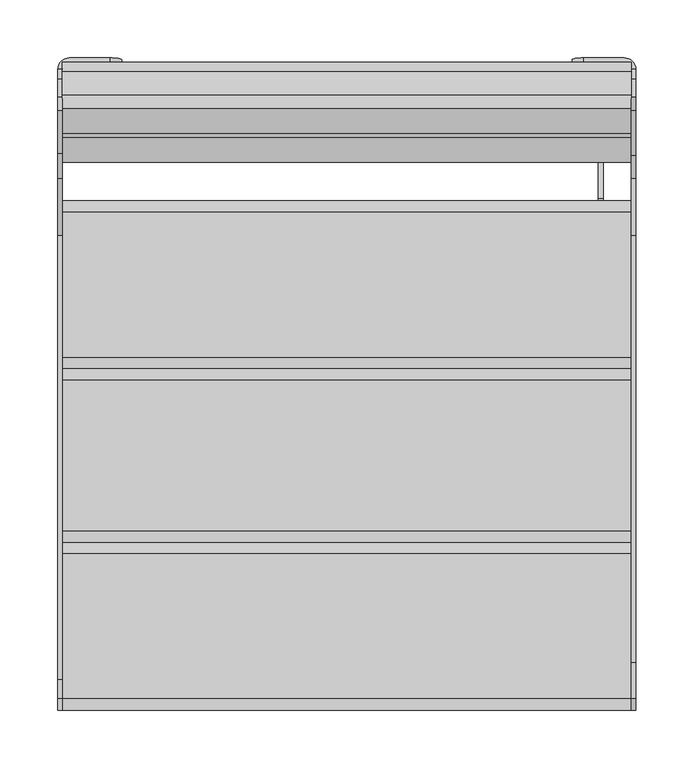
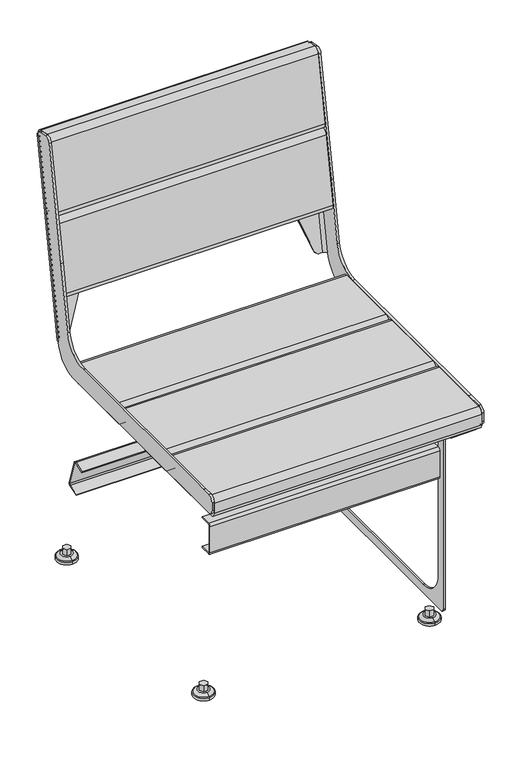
"""IFC4 building model written with IfcOpenShell, lengths in millimetres: furniture geometry, Roros Produkter - Trend - Chair - 32975 : Roros Produkter - Trend - Chair - 32975."""

from ifc_helpers import new_model, si_unit, point, frame, frame_2d, origin, place, context, project, spatial, polyline, circle_curve, ellipse_curve, trimmed, segment, composite_curve, outline, extrude, source, transform, mapped, element, save
from ifc_brep_helpers import plane_surface, cylinder_surface, revolved_surface, advanced_brep


def furniture_13b11725(model_context):
    return source(origin(), model_context, "Body", "SolidModel", [
        extrude(outline(polyline([(210.9527767, -224.3308404), (203.4472233, -224.3308404), (199.6944465, -217.8308404), (203.4472233, -211.3308404), (210.9527767, -211.3308404), (214.7055535, -217.8308404), (210.9527767, -224.3308404)])), frame((0.0, 0.0, 10.0), z_axis=(0.0, 0.0, 1.0), x_axis=(1.0, 0.0, 0.0)), (0.0, 0.0, 1.0), 11.7),
        advanced_brep(
        [(207.18125, -199.3308404, 4.3376919), (207.18125, -236.3308404, 4.3376919), (207.18125, -236.3308404, 0.0), (207.18125, -199.3308404, 0.0), (207.18125, -200.3216002, 6.0888539), (207.18125, -235.3400807, 6.0888539), (207.18125, -206.8308404, 10.0), (207.18125, -228.8308404, 10.0), (207.18125, -217.8308404, 10.0), (207.18125, -217.8308404, 0.0)],
        [
            (0, 1, circle_curve(frame((207.18125, -217.8308404, 4.3376919), z_axis=(0.0, 0.0, -1.0), x_axis=(0.0, -1.0, 0.0)), 18.5)),
            (1, 2),
            (2, 3, circle_curve(frame((207.18125, -217.8308404, 0.0), z_axis=(0.0, 0.0, 1.0), x_axis=(0.0, -1.0, 0.0)), 18.5)),
            (3, 0),
            (1, 0, circle_curve(frame((207.18125, -217.8308404, 4.3376919), z_axis=(0.0, 0.0, -1.0), x_axis=(0.0, -1.0, 0.0)), 18.5)),
            (3, 2, circle_curve(frame((207.18125, -217.8308404, 0.0), z_axis=(0.0, 0.0, 1.0), x_axis=(0.0, -1.0, 0.0)), 18.5)),
            (4, 5, circle_curve(frame((207.18125, -217.8308404, 6.0888539), z_axis=(0.0, 0.0, -1.0), x_axis=(0.0, -1.0, 0.0)), 17.5092402)),
            (5, 1, circle_curve(frame((207.18125, -234.2878764, 4.3376919), z_axis=(1.0, 0.0, 0.0), x_axis=(0.0, 1.0, 0.0)), 2.042964)),
            (0, 4, circle_curve(frame((207.18125, -201.3738045, 4.3376919), z_axis=(1.0, 0.0, 0.0), x_axis=(0.0, -1.0, 0.0)), 2.042964)),
            (5, 4, circle_curve(frame((207.18125, -217.8308404, 6.0888539), z_axis=(0.0, 0.0, -1.0), x_axis=(0.0, -1.0, 0.0)), 17.5092402)),
            (6, 7, circle_curve(frame((207.18125, -217.8308404, 10.0), z_axis=(0.0, 0.0, -1.0), x_axis=(0.0, -1.0, 0.0)), 11.0)),
            (7, 5),
            (4, 6),
            (7, 6, circle_curve(frame((207.18125, -217.8308404, 10.0), z_axis=(0.0, 0.0, -1.0), x_axis=(0.0, -1.0, 0.0)), 11.0)),
            (8, 7),
            (6, 8),
            (2, 9),
            (9, 3),
        ],
        [
            cylinder_surface(frame((207.18125, -217.8308404, 10.0), z_axis=(0.0, 0.0, 1.0), x_axis=(0.0, -1.0, 0.0)), 18.5),
            revolved_surface(trimmed(ellipse_curve(frame((207.18125, -234.2878764, 4.3376919), z_axis=(-1.0, 0.0, 0.0), x_axis=(0.0, 1.0, 0.0)), 2.042964, 2.042964), [point((207.18125, -236.3308404, 4.3376919))], [point((207.18125, -235.3400807, 6.0888539))], True, "CARTESIAN"), (207.18125, -217.8308404, 10.0), (0.0, 0.0, 1.0)),
            revolved_surface(polyline([(207.18125, -235.3400807, 6.0888539), (207.18125, -228.8308404, 10.0)]), (207.18125, -217.8308404, 10.0), (0.0, 0.0, 1.0)),
            plane_surface(frame((207.18125, -217.8308404, 10.0), z_axis=(0.0, 0.0, 1.0), x_axis=(0.0, -1.0, 0.0))),
            plane_surface(frame((207.18125, -217.8308404, 0.0), z_axis=(0.0, 0.0, -1.0), x_axis=(0.0, -1.0, 0.0))),
        ],
        [
            (0, [[1, 2, 3, 4]]),
            (0, [[5, -4, 6, -2]]),
            (1, [[7, 8, -1, 9]]),
            (1, [[10, -9, -5, -8]]),
            (2, [[11, 12, -7, 13]]),
            (2, [[14, -13, -10, -12]]),
            (3, [[15, -11, 16]]),
            (3, [[-16, -14, -15]]),
            (4, [[-3, 17, 18]]),
            (4, [[-6, -18, -17]]),
        ],
    ),
        extrude(outline(polyline([(210.9527767, 224.3308404), (214.7055535, 217.8308404), (210.9527767, 211.3308404), (203.4472233, 211.3308404), (199.6944465, 217.8308404), (203.4472233, 224.3308404), (210.9527767, 224.3308404)])), frame((0.0, 0.0, 10.0), z_axis=(0.0, 0.0, 1.0), x_axis=(1.0, 0.0, 0.0)), (0.0, 0.0, 1.0), 11.7),
        advanced_brep(
        [(207.18125, 199.3308404, 0.0), (207.18125, 236.3308404, 0.0), (207.18125, 236.3308404, 4.3376919), (207.18125, 199.3308404, 4.3376919), (207.18125, 235.3400807, 6.0888539), (207.18125, 200.3216002, 6.0888539), (207.18125, 228.8308404, 10.0), (207.18125, 206.8308404, 10.0), (207.18125, 217.8308404, 10.0), (207.18125, 217.8308404, 0.0)],
        [
            (0, 1, circle_curve(frame((207.18125, 217.8308404, 0.0), z_axis=(0.0, 0.0, 1.0), x_axis=(0.0, 1.0, 0.0)), 18.5)),
            (1, 2),
            (2, 3, circle_curve(frame((207.18125, 217.8308404, 4.3376919), z_axis=(0.0, 0.0, -1.0), x_axis=(0.0, 1.0, 0.0)), 18.5)),
            (3, 0),
            (1, 0, circle_curve(frame((207.18125, 217.8308404, 0.0), z_axis=(0.0, 0.0, 1.0), x_axis=(0.0, 1.0, 0.0)), 18.5)),
            (3, 2, circle_curve(frame((207.18125, 217.8308404, 4.3376919), z_axis=(0.0, 0.0, -1.0), x_axis=(0.0, 1.0, 0.0)), 18.5)),
            (2, 4, circle_curve(frame((207.18125, 234.2878764, 4.3376919), z_axis=(1.0, 0.0, 0.0), x_axis=(0.0, -1.0, 0.0)), 2.042964)),
            (4, 5, circle_curve(frame((207.18125, 217.8308404, 6.0888539), z_axis=(0.0, 0.0, -1.0), x_axis=(0.0, 1.0, 0.0)), 17.5092402)),
            (5, 3, circle_curve(frame((207.18125, 201.3738045, 4.3376919), z_axis=(1.0, 0.0, 0.0), x_axis=(0.0, 1.0, 0.0)), 2.042964)),
            (5, 4, circle_curve(frame((207.18125, 217.8308404, 6.0888539), z_axis=(0.0, 0.0, -1.0), x_axis=(0.0, 1.0, 0.0)), 17.5092402)),
            (4, 6),
            (6, 7, circle_curve(frame((207.18125, 217.8308404, 10.0), z_axis=(0.0, 0.0, -1.0), x_axis=(0.0, 1.0, 0.0)), 11.0)),
            (7, 5),
            (7, 6, circle_curve(frame((207.18125, 217.8308404, 10.0), z_axis=(0.0, 0.0, -1.0), x_axis=(0.0, 1.0, 0.0)), 11.0)),
            (6, 8),
            (8, 7),
            (9, 1),
            (0, 9),
        ],
        [
            cylinder_surface(frame((207.18125, 217.8308404, 10.0), z_axis=(0.0, 0.0, -1.0), x_axis=(0.0, 1.0, 0.0)), 18.5),
            revolved_surface(trimmed(ellipse_curve(frame((207.18125, 234.2878764, 4.3376919), z_axis=(-1.0, 0.0, 0.0), x_axis=(0.0, -1.0, 0.0)), 2.042964, 2.042964), [point((207.18125, 235.3400807, 6.0888539))], [point((207.18125, 236.3308404, 4.3376919))], True, "CARTESIAN"), (207.18125, 217.8308404, 10.0), (0.0, 0.0, -1.0)),
            revolved_surface(polyline([(207.18125, 228.8308404, 10.0), (207.18125, 235.3400807, 6.0888539)]), (207.18125, 217.8308404, 10.0), (0.0, 0.0, -1.0)),
            plane_surface(frame((207.18125, 217.8308404, 10.0), z_axis=(0.0, 0.0, 1.0), x_axis=(0.0, 1.0, 0.0))),
            plane_surface(frame((207.18125, 217.8308404, 0.0), z_axis=(0.0, 0.0, -1.0), x_axis=(0.0, 1.0, 0.0))),
        ],
        [
            (0, [[1, 2, 3, 4]]),
            (0, [[5, -4, 6, -2]]),
            (1, [[-3, 7, 8, 9]]),
            (1, [[-6, -9, 10, -7]]),
            (2, [[-8, 11, 12, 13]]),
            (2, [[-10, -13, 14, -11]]),
            (3, [[-12, 15, 16]]),
            (3, [[-14, -16, -15]]),
            (4, [[17, -1, 18]]),
            (4, [[-18, -5, -17]]),
        ],
    ),
        extrude(outline(polyline([(-211.5527767, -224.3308404), (-215.3055535, -217.8308404), (-211.5527767, -211.3308404), (-204.0472233, -211.3308404), (-200.2944465, -217.8308404), (-204.0472233, -224.3308404), (-211.5527767, -224.3308404)])), frame((0.0, 0.0, 10.0), z_axis=(0.0, 0.0, 1.0), x_axis=(1.0, 0.0, 0.0)), (0.0, 0.0, 1.0), 11.7),
        advanced_brep(
        [(-207.78125, -199.3308404, 0.0), (-207.78125, -236.3308404, 0.0), (-207.78125, -236.3308404, 4.3376919), (-207.78125, -199.3308404, 4.3376919), (-207.78125, -235.3400807, 6.0888539), (-207.78125, -200.3216002, 6.0888539), (-207.78125, -228.8308404, 10.0), (-207.78125, -206.8308404, 10.0), (-207.78125, -217.8308404, 10.0), (-207.78125, -217.8308404, 0.0)],
        [
            (0, 1, circle_curve(frame((-207.78125, -217.8308404, 0.0), z_axis=(0.0, 0.0, 1.0), x_axis=(0.0, -1.0, 0.0)), 18.5)),
            (1, 2),
            (2, 3, circle_curve(frame((-207.78125, -217.8308404, 4.3376919), z_axis=(0.0, 0.0, -1.0), x_axis=(0.0, -1.0, 0.0)), 18.5)),
            (3, 0),
            (1, 0, circle_curve(frame((-207.78125, -217.8308404, 0.0), z_axis=(0.0, 0.0, 1.0), x_axis=(0.0, -1.0, 0.0)), 18.5)),
            (3, 2, circle_curve(frame((-207.78125, -217.8308404, 4.3376919), z_axis=(0.0, 0.0, -1.0), x_axis=(0.0, -1.0, 0.0)), 18.5)),
            (2, 4, circle_curve(frame((-207.78125, -234.2878764, 4.3376919), z_axis=(-1.0, 0.0, 0.0), x_axis=(0.0, 1.0, 0.0)), 2.042964)),
            (4, 5, circle_curve(frame((-207.78125, -217.8308404, 6.0888539), z_axis=(0.0, 0.0, -1.0), x_axis=(0.0, -1.0, 0.0)), 17.5092402)),
            (5, 3, circle_curve(frame((-207.78125, -201.3738045, 4.3376919), z_axis=(-1.0, 0.0, 0.0), x_axis=(0.0, -1.0, 0.0)), 2.042964)),
            (5, 4, circle_curve(frame((-207.78125, -217.8308404, 6.0888539), z_axis=(0.0, 0.0, -1.0), x_axis=(0.0, -1.0, 0.0)), 17.5092402)),
            (4, 6),
            (6, 7, circle_curve(frame((-207.78125, -217.8308404, 10.0), z_axis=(0.0, 0.0, -1.0), x_axis=(0.0, -1.0, 0.0)), 11.0)),
            (7, 5),
            (7, 6, circle_curve(frame((-207.78125, -217.8308404, 10.0), z_axis=(0.0, 0.0, -1.0), x_axis=(0.0, -1.0, 0.0)), 11.0)),
            (6, 8),
            (8, 7),
            (9, 1),
            (0, 9),
        ],
        [
            cylinder_surface(frame((-207.78125, -217.8308404, 10.0), z_axis=(0.0, 0.0, -1.0), x_axis=(0.0, -1.0, 0.0)), 18.5),
            revolved_surface(trimmed(ellipse_curve(frame((-207.78125, -234.2878764, 4.3376919), z_axis=(1.0, 0.0, 0.0), x_axis=(0.0, 1.0, 0.0)), 2.042964, 2.042964), [point((-207.78125, -235.3400807, 6.0888539))], [point((-207.78125, -236.3308404, 4.3376919))], True, "CARTESIAN"), (-207.78125, -217.8308404, 10.0), (0.0, 0.0, -1.0)),
            revolved_surface(polyline([(-207.78125, -228.8308404, 10.0), (-207.78125, -235.3400807, 6.0888539)]), (-207.78125, -217.8308404, 10.0), (0.0, 0.0, -1.0)),
            plane_surface(frame((-207.78125, -217.8308404, 10.0), z_axis=(0.0, 0.0, 1.0), x_axis=(0.0, -1.0, 0.0))),
            plane_surface(frame((-207.78125, -217.8308404, 0.0), z_axis=(0.0, 0.0, -1.0), x_axis=(0.0, -1.0, 0.0))),
        ],
        [
            (0, [[1, 2, 3, 4]]),
            (0, [[5, -4, 6, -2]]),
            (1, [[-3, 7, 8, 9]]),
            (1, [[-6, -9, 10, -7]]),
            (2, [[-8, 11, 12, 13]]),
            (2, [[-10, -13, 14, -11]]),
            (3, [[-12, 15, 16]]),
            (3, [[-14, -16, -15]]),
            (4, [[17, -1, 18]]),
            (4, [[-18, -5, -17]]),
        ],
    ),
        extrude(outline(polyline([(-211.5527767, 224.3308404), (-204.0472233, 224.3308404), (-200.2944465, 217.8308404), (-204.0472233, 211.3308404), (-211.5527767, 211.3308404), (-215.3055535, 217.8308404), (-211.5527767, 224.3308404)])), frame((0.0, 0.0, 10.0), z_axis=(0.0, 0.0, 1.0), x_axis=(1.0, 0.0, 0.0)), (0.0, 0.0, 1.0), 11.7),
        advanced_brep(
        [(-207.78125, 199.3308404, 4.3376919), (-207.78125, 236.3308404, 4.3376919), (-207.78125, 236.3308404, 0.0), (-207.78125, 199.3308404, 0.0), (-207.78125, 200.3216002, 6.0888539), (-207.78125, 235.3400807, 6.0888539), (-207.78125, 206.8308404, 10.0), (-207.78125, 228.8308404, 10.0), (-207.78125, 217.8308404, 10.0), (-207.78125, 217.8308404, 0.0)],
        [
            (0, 1, circle_curve(frame((-207.78125, 217.8308404, 4.3376919), z_axis=(0.0, 0.0, -1.0), x_axis=(0.0, 1.0, 0.0)), 18.5)),
            (1, 2),
            (2, 3, circle_curve(frame((-207.78125, 217.8308404, 0.0), z_axis=(0.0, 0.0, 1.0), x_axis=(0.0, 1.0, 0.0)), 18.5)),
            (3, 0),
            (1, 0, circle_curve(frame((-207.78125, 217.8308404, 4.3376919), z_axis=(0.0, 0.0, -1.0), x_axis=(0.0, 1.0, 0.0)), 18.5)),
            (3, 2, circle_curve(frame((-207.78125, 217.8308404, 0.0), z_axis=(0.0, 0.0, 1.0), x_axis=(0.0, 1.0, 0.0)), 18.5)),
            (4, 5, circle_curve(frame((-207.78125, 217.8308404, 6.0888539), z_axis=(0.0, 0.0, -1.0), x_axis=(0.0, 1.0, 0.0)), 17.5092402)),
            (5, 1, circle_curve(frame((-207.78125, 234.2878764, 4.3376919), z_axis=(-1.0, 0.0, 0.0), x_axis=(0.0, -1.0, 0.0)), 2.042964)),
            (0, 4, circle_curve(frame((-207.78125, 201.3738045, 4.3376919), z_axis=(-1.0, 0.0, 0.0), x_axis=(0.0, 1.0, 0.0)), 2.042964)),
            (5, 4, circle_curve(frame((-207.78125, 217.8308404, 6.0888539), z_axis=(0.0, 0.0, -1.0), x_axis=(0.0, 1.0, 0.0)), 17.5092402)),
            (6, 7, circle_curve(frame((-207.78125, 217.8308404, 10.0), z_axis=(0.0, 0.0, -1.0), x_axis=(0.0, 1.0, 0.0)), 11.0)),
            (7, 5),
            (4, 6),
            (7, 6, circle_curve(frame((-207.78125, 217.8308404, 10.0), z_axis=(0.0, 0.0, -1.0), x_axis=(0.0, 1.0, 0.0)), 11.0)),
            (8, 7),
            (6, 8),
            (2, 9),
            (9, 3),
        ],
        [
            cylinder_surface(frame((-207.78125, 217.8308404, 10.0), z_axis=(0.0, 0.0, 1.0), x_axis=(0.0, 1.0, 0.0)), 18.5),
            revolved_surface(trimmed(ellipse_curve(frame((-207.78125, 234.2878764, 4.3376919), z_axis=(1.0, 0.0, 0.0), x_axis=(0.0, -1.0, 0.0)), 2.042964, 2.042964), [point((-207.78125, 236.3308404, 4.3376919))], [point((-207.78125, 235.3400807, 6.0888539))], True, "CARTESIAN"), (-207.78125, 217.8308404, 10.0), (0.0, 0.0, 1.0)),
            revolved_surface(polyline([(-207.78125, 235.3400807, 6.0888539), (-207.78125, 228.8308404, 10.0)]), (-207.78125, 217.8308404, 10.0), (0.0, 0.0, 1.0)),
            plane_surface(frame((-207.78125, 217.8308404, 10.0), z_axis=(0.0, 0.0, 1.0), x_axis=(0.0, 1.0, 0.0))),
            plane_surface(frame((-207.78125, 217.8308404, 0.0), z_axis=(0.0, 0.0, -1.0), x_axis=(0.0, 1.0, 0.0))),
        ],
        [
            (0, [[1, 2, 3, 4]]),
            (0, [[5, -4, 6, -2]]),
            (1, [[7, 8, -1, 9]]),
            (1, [[10, -9, -5, -8]]),
            (2, [[11, 12, -7, 13]]),
            (2, [[14, -13, -10, -12]]),
            (3, [[15, -11, 16]]),
            (3, [[-16, -14, -15]]),
            (4, [[-3, 17, 18]]),
            (4, [[-6, -18, -17]]),
        ],
    ),
        extrude(outline(composite_curve([segment(trimmed(circle_curve(frame_2d((-32.8308404, 445.464)), 10.0), [point((-32.8308404, 455.464))], [point((-22.8308404, 445.464))], False, "CARTESIAN"), True, "CONTINUOUS"), segment(polyline([(-22.8308404, 445.464), (-22.8308404, 425.464)]), True, "CONTINUOUS"), segment(trimmed(circle_curve(frame_2d((-32.8308404, 425.464)), 10.0), [point((-22.8308404, 425.464))], [point((-32.8308404, 415.464))], False, "CARTESIAN"), True, "CONTINUOUS"), segment(polyline([(-32.8308404, 415.464), (-162.8308404, 415.464)]), True, "CONTINUOUS"), segment(trimmed(circle_curve(frame_2d((-162.8308404, 425.464)), 10.0), [point((-162.8308404, 415.464))], [point((-172.8308404, 425.464))], False, "CARTESIAN"), True, "CONTINUOUS"), segment(polyline([(-172.8308404, 425.464), (-172.8308404, 445.464)]), True, "CONTINUOUS"), segment(trimmed(circle_curve(frame_2d((-162.8308404, 445.464)), 10.0), [point((-172.8308404, 445.464))], [point((-162.8308404, 455.464))], False, "CARTESIAN"), True, "CONTINUOUS"), segment(polyline([(-162.8308404, 455.464), (-32.8308404, 455.464)]), True, "CONTINUOUS")], self_intersect=False)), frame((-246.0, 0.0, 0.0), z_axis=(1.0, 0.0, 0.0), x_axis=(0.0, 1.0, 0.0)), (0.0, 0.0, 1.0), 491.4),
        extrude(outline(composite_curve([segment(trimmed(circle_curve(frame_2d((231.9175378, 825.7240761)), 10.0), [point((233.6540196, 835.5721536))], [point((241.7656153, 823.9875943))], False, "CARTESIAN"), True, "CONTINUOUS"), segment(polyline([(241.7656153, 823.9875943), (220.0595931, 700.8866252)]), True, "CONTINUOUS"), segment(trimmed(circle_curve(frame_2d((210.2115156, 702.623107)), 10.0), [point((220.0595931, 700.8866252))], [point((208.4750338, 692.7750295))], False, "CARTESIAN"), True, "CONTINUOUS"), segment(polyline([(208.4750338, 692.7750295), (188.7788787, 696.247993)]), True, "CONTINUOUS"), segment(trimmed(circle_curve(frame_2d((190.5153605, 706.0960705)), 10.0), [point((188.7788787, 696.247993))], [point((180.667283, 707.8325523))], False, "CARTESIAN"), True, "CONTINUOUS"), segment(polyline([(180.667283, 707.8325523), (202.3733052, 830.9335214)]), True, "CONTINUOUS"), segment(trimmed(circle_curve(frame_2d((212.2213827, 829.1970397)), 10.0), [point((202.3733052, 830.9335214))], [point((213.9578645, 839.0451172))], False, "CARTESIAN"), True, "CONTINUOUS"), segment(polyline([(213.9578645, 839.0451172), (233.6540196, 835.5721536)]), True, "CONTINUOUS")], self_intersect=False)), frame((-246.0, 0.0, 0.0), z_axis=(1.0, 0.0, 0.0), x_axis=(0.0, 1.0, 0.0)), (0.0, 0.0, 1.0), 491.4),
        extrude(outline(composite_curve([segment(trimmed(circle_curve(frame_2d((112.1691596, 445.464)), 10.0), [point((112.1691596, 455.464))], [point((122.1691596, 445.464))], False, "CARTESIAN"), True, "CONTINUOUS"), segment(polyline([(122.1691596, 445.464), (122.1691596, 425.464)]), True, "CONTINUOUS"), segment(trimmed(circle_curve(frame_2d((112.1691596, 425.464)), 10.0), [point((122.1691596, 425.464))], [point((112.1691596, 415.464))], False, "CARTESIAN"), True, "CONTINUOUS"), segment(polyline([(112.1691596, 415.464), (-12.8308404, 415.464)]), True, "CONTINUOUS"), segment(trimmed(circle_curve(frame_2d((-12.8308404, 425.464)), 10.0), [point((-12.8308404, 415.464))], [point((-22.8308404, 425.464))], False, "CARTESIAN"), True, "CONTINUOUS"), segment(polyline([(-22.8308404, 425.464), (-22.8308404, 445.464)]), True, "CONTINUOUS"), segment(trimmed(circle_curve(frame_2d((-12.8308404, 445.464)), 10.0), [point((-22.8308404, 445.464))], [point((-12.8308404, 455.464))], False, "CARTESIAN"), True, "CONTINUOUS"), segment(polyline([(-12.8308404, 455.464), (112.1691596, 455.464)]), True, "CONTINUOUS")], self_intersect=False)), frame((-246.0, 0.0, 0.0), z_axis=(1.0, 0.0, 0.0), x_axis=(0.0, 1.0, 0.0)), (0.0, 0.0, 1.0), 491.4),
        extrude(outline(composite_curve([segment(trimmed(circle_curve(frame_2d((-182.8308404, 445.464)), 10.0), [point((-182.8308404, 455.464))], [point((-172.8308404, 445.464))], False, "CARTESIAN"), True, "CONTINUOUS"), segment(polyline([(-172.8308404, 445.464), (-172.8308404, 425.464)]), True, "CONTINUOUS"), segment(trimmed(circle_curve(frame_2d((-182.8308404, 425.464)), 10.0), [point((-172.8308404, 425.464))], [point((-182.8308404, 415.464))], False, "CARTESIAN"), True, "CONTINUOUS"), segment(polyline([(-182.8308404, 415.464), (-307.8308404, 415.464)]), True, "CONTINUOUS"), segment(trimmed(circle_curve(frame_2d((-307.8308404, 425.464)), 10.0), [point((-307.8308404, 415.464))], [point((-317.8308404, 425.464))], False, "CARTESIAN"), True, "CONTINUOUS"), segment(polyline([(-317.8308404, 425.464), (-317.8308404, 445.464)]), True, "CONTINUOUS"), segment(trimmed(circle_curve(frame_2d((-307.8308404, 445.464)), 10.0), [point((-317.8308404, 445.464))], [point((-307.8308404, 455.464))], False, "CARTESIAN"), True, "CONTINUOUS"), segment(polyline([(-307.8308404, 455.464), (-182.8308404, 455.464)]), True, "CONTINUOUS")], self_intersect=False)), frame((-246.0, 0.0, 0.0), z_axis=(1.0, 0.0, 0.0), x_axis=(0.0, 1.0, 0.0)), (0.0, 0.0, 1.0), 491.4),
        extrude(outline(composite_curve([segment(trimmed(circle_curve(frame_2d((165.3363748, 563.2989464)), 10.0), [point((163.599893, 553.4508688))], [point((155.4882972, 565.0354281))], False, "CARTESIAN"), True, "CONTINUOUS"), segment(polyline([(155.4882972, 565.0354281), (177.1943194, 688.1363973)]), True, "CONTINUOUS"), segment(trimmed(circle_curve(frame_2d((187.042397, 686.3999155)), 10.0), [point((177.1943194, 688.1363973))], [point((188.7788787, 696.247993))], False, "CARTESIAN"), True, "CONTINUOUS"), segment(polyline([(188.7788787, 696.247993), (208.4750338, 692.7750295)]), True, "CONTINUOUS"), segment(trimmed(circle_curve(frame_2d((206.738552, 682.9269519)), 10.0), [point((208.4750338, 692.7750295))], [point((216.5866296, 681.1904701))], False, "CARTESIAN"), True, "CONTINUOUS"), segment(polyline([(216.5866296, 681.1904701), (194.8806073, 558.089501)]), True, "CONTINUOUS"), segment(trimmed(circle_curve(frame_2d((185.0325298, 559.8259828)), 10.0), [point((194.8806073, 558.089501))], [point((183.296048, 549.9779053))], False, "CARTESIAN"), True, "CONTINUOUS"), segment(polyline([(183.296048, 549.9779053), (163.599893, 553.4508688)]), True, "CONTINUOUS")], self_intersect=False)), frame((-246.0, 0.0, 0.0), z_axis=(1.0, 0.0, 0.0), x_axis=(0.0, 1.0, 0.0)), (0.0, 0.0, 1.0), 491.4),
        extrude(outline(composite_curve([segment(polyline([(-239.3308404, 346.7777471), (-218.8308404, 346.7777471), (-218.8308404, 344.777747), (-239.3308404, 344.777747)]), True, "CONTINUOUS"), segment(trimmed(circle_curve(frame_2d((-239.3308404, 342.277747)), 2.5), [point((-239.3308404, 344.777747))], [point((-241.8308404, 342.277747))], True, "CARTESIAN"), True, "CONTINUOUS"), segment(polyline([(-241.8308404, 342.277747), (-241.8308404, 291.2777432)]), True, "CONTINUOUS"), segment(trimmed(circle_curve(frame_2d((-239.3308404, 291.2777432)), 2.5), [point((-241.8308404, 291.2777432))], [point((-239.3308404, 288.7777432))], True, "CARTESIAN"), True, "CONTINUOUS"), segment(polyline([(-239.3308404, 288.7777432), (-218.8308404, 288.7777432), (-218.8308404, 286.7777431), (-239.3308404, 286.7777431)]), True, "CONTINUOUS"), segment(trimmed(circle_curve(frame_2d((-239.3308404, 291.2777431)), 4.5), [point((-239.3308404, 286.7777431))], [point((-243.8308404, 291.2777431))], False, "CARTESIAN"), True, "CONTINUOUS"), segment(polyline([(-243.8308404, 291.2777431), (-243.8308404, 342.2777471)]), True, "CONTINUOUS"), segment(trimmed(circle_curve(frame_2d((-239.3308404, 342.2777471)), 4.5), [point((-243.8308404, 342.2777471))], [point((-239.3308404, 346.7777471))], False, "CARTESIAN"), True, "CONTINUOUS")], self_intersect=False)), frame((-211.0, 0.0, 0.0), z_axis=(1.0, 0.0, 0.0), x_axis=(0.0, 1.0, 0.0)), (0.0, 0.0, 1.0), 422.0),
        extrude(outline(composite_curve([segment(polyline([(162.9895923, 202.3205145), (182.4862509, 208.6553629)]), True, "CONTINUOUS"), segment(trimmed(circle_curve(frame_2d((183.8768274, 204.3756086)), 4.5), [point((182.4862509, 208.6553629))], [point((188.1565817, 205.766185))], False, "CARTESIAN"), True, "CONTINUOUS"), segment(polyline([(188.1565817, 205.766185), (203.9059435, 157.2946335)]), True, "CONTINUOUS"), segment(trimmed(circle_curve(frame_2d((199.5938584, 155.8935521)), 4.5339946), [point((203.9059435, 157.2946335))], [point((200.9949398, 151.581467))], False, "CARTESIAN"), True, "CONTINUOUS"), segment(polyline([(200.9949398, 151.581467), (181.530612, 145.2571235), (180.912578, 147.1592366), (200.4250242, 153.4992147)]), True, "CONTINUOUS"), segment(trimmed(circle_curve(frame_2d((199.6576115, 155.8610683)), 2.4833999), [point((200.4250242, 153.4992147))], [point((202.0194651, 156.6284811))], True, "CARTESIAN"), True, "CONTINUOUS"), segment(polyline([(202.0194651, 156.6284811), (186.2544687, 205.1481511)]), True, "CONTINUOUS"), segment(trimmed(circle_curve(frame_2d((183.8768274, 204.3756086)), 2.5), [point((186.2544687, 205.1481511))], [point((183.1042849, 206.7532499))], True, "CARTESIAN"), True, "CONTINUOUS"), segment(polyline([(183.1042849, 206.7532499), (163.6076263, 200.4184015), (162.9895923, 202.3205145)]), True, "CONTINUOUS")], self_intersect=False)), frame((-211.0, 0.0, 0.0), z_axis=(1.0, 0.0, 0.0), x_axis=(0.0, 1.0, 0.0)), (0.0, 0.0, 1.0), 421.4),
        advanced_brep(
        [(-246.0, -307.8308404, 457.464), (-246.0, -291.7482414, 457.464), (-250.0, -291.7482414, 457.464), (-250.0, -307.8308404, 457.464), (-246.0, -317.8308404, 447.464), (-250.0, -317.8308404, 447.464), (-246.0, -317.8308404, 431.664), (-250.0, -317.8308404, 431.664), (-246.0, -307.8308404, 421.664), (-250.0, -307.8308404, 421.664), (-246.0, 121.742304, 421.664), (-250.0, 121.742304, 421.664), (-246.0, 123.242304, 421.664), (-250.0, 123.242304, 421.664), (-246.0, 171.5252579, 461.3391091), (-250.0, 171.5252579, 461.3391091), (-246.0, 171.7857301, 462.8163208), (-250.0, 171.7857301, 462.8163208), (-246.0, 227.5482115, 836.6487723), (-246.0, 235.6598072, 825.064213), (-250.0, 235.6598072, 825.064213), (-250.0, 227.5482115, 836.6487723), (-246.0, 211.988249, 839.3924135), (-250.0, 211.988249, 839.3924135), (-246.0, 200.4036897, 831.2808178), (-250.0, 200.4036897, 831.2808178), (-246.0, 163.1558499, 620.0378213), (-250.0, 163.1558499, 620.0378213), (-246.0, 141.775105, 498.7815911), (-250.0, 141.775105, 498.7815911), (-246.0, 92.5347173, 457.464), (-250.0, 92.5347173, 457.464), (-240.0, 245.7048463, 823.2930016), (-250.0, 235.8567688, 825.0294834), (-246.0, 235.8567688, 825.0294834), (-240.0, 241.7656153, 823.9875943), (-205.0, 241.7656153, 823.9875943), (-205.0, 245.7048463, 823.2930016), (-240.0, 177.8915382, 461.7397021), (-246.0, 171.9826917, 462.7815911), (-250.0, 171.9826917, 462.7815911), (-240.0, 181.8307692, 461.0451093), (-234.7989561, 181.8307692, 461.0451093), (-234.7989561, 177.8915382, 461.7397021), (-225.4034627, 179.0334251, 468.2156645), (-195.6045066, 193.2318427, 548.7388923), (-195.0, 193.8264376, 552.1110073), (-195.0, 240.0291335, 814.1395168), (-195.0, 197.7656686, 551.4164146), (-195.0, 243.9683646, 813.4449241), (-195.6045066, 197.1710737, 548.0442996), (-225.4034627, 182.9726561, 467.5210718)],
        [
            (0, 1),
            (1, 2),
            (2, 3),
            (3, 0),
            (4, 0, circle_curve(frame((-246.0, -307.8308404, 447.464), z_axis=(-1.0, 0.0, 0.0), x_axis=(0.0, -1.0, 0.0)), 10.0)),
            (3, 5, circle_curve(frame((-250.0, -307.8308404, 447.464), z_axis=(1.0, 0.0, 0.0), x_axis=(0.0, -1.0, 0.0)), 10.0)),
            (5, 4),
            (6, 4),
            (5, 7),
            (7, 6),
            (8, 6, circle_curve(frame((-246.0, -307.8308404, 431.664), z_axis=(-1.0, 0.0, 0.0), x_axis=(0.0, -0.7071067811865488, -0.7071067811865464)), 10.0)),
            (7, 9, circle_curve(frame((-250.0, -307.8308404, 431.664), z_axis=(1.0, 0.0, 0.0), x_axis=(0.0, -0.7071067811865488, -0.7071067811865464)), 10.0)),
            (9, 8),
            (10, 8),
            (9, 11),
            (11, 10),
            (12, 10),
            (11, 13),
            (13, 12),
            (14, 12, circle_curve(frame((-246.0, 122.6020398, 471.6599004), z_axis=(-1.0, 0.0, 0.0), x_axis=(0.0, -0.9784643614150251, 0.20641582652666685)), 50.0)),
            (13, 15, circle_curve(frame((-250.0, 122.6020398, 471.6599004), z_axis=(1.0, 0.0, 0.0), x_axis=(0.0, -0.9784643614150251, 0.20641582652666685)), 50.0)),
            (15, 14),
            (16, 14),
            (15, 17),
            (17, 16),
            (18, 19, circle_curve(frame((-246.0, 225.8117297, 826.8006948), z_axis=(-1.0, 0.0, 0.0), x_axis=(0.0, 0.8191520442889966, 0.5735764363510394)), 10.0)),
            (19, 20),
            (20, 21, circle_curve(frame((-250.0, 225.8117297, 826.8006948), z_axis=(1.0, 0.0, 0.0), x_axis=(0.0, 0.8191520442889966, 0.5735764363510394)), 10.0)),
            (21, 18),
            (22, 18),
            (21, 23),
            (23, 22),
            (24, 22, circle_curve(frame((-246.0, 210.2517672, 829.544336), z_axis=(-1.0, 0.0, 0.0), x_axis=(0.0, -0.9848077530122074, 0.17364817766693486)), 10.0)),
            (23, 25, circle_curve(frame((-250.0, 210.2517672, 829.544336), z_axis=(1.0, 0.0, 0.0), x_axis=(0.0, -0.9848077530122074, 0.17364817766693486)), 10.0)),
            (25, 24),
            (26, 24),
            (25, 27),
            (27, 26),
            (28, 26),
            (27, 29),
            (29, 28),
            (30, 28, circle_curve(frame((-246.0, 92.5347173, 507.464), z_axis=(1.0, 0.0, 0.0), x_axis=(0.0, -0.9848077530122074, 0.17364817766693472)), 50.0)),
            (29, 31, circle_curve(frame((-250.0, 92.5347173, 507.464), z_axis=(-1.0, 0.0, 0.0), x_axis=(0.0, -0.9848077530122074, 0.17364817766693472)), 50.0)),
            (31, 30),
            (1, 30),
            (31, 2),
            (32, 33, circle_curve(frame((-240.0, 235.8567688, 825.0294834), z_axis=(0.0, 0.1736481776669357, 0.9848077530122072), x_axis=(0.0, 0.9848077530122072, -0.1736481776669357)), 10.0)),
            (33, 20),
            (19, 34),
            (34, 35, circle_curve(frame((-240.0, 235.8567688, 825.0294834), z_axis=(0.0, -0.1736481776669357, -0.9848077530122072), x_axis=(0.0, 0.9848077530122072, -0.1736481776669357)), 6.0)),
            (35, 36),
            (36, 37),
            (37, 32),
            (38, 39, circle_curve(frame((-240.0, 171.9826917, 462.7815911), z_axis=(0.0, 0.1736481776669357, 0.9848077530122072), x_axis=(0.0, 0.9848077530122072, -0.1736481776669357)), 6.0)),
            (39, 16),
            (17, 40),
            (40, 41, circle_curve(frame((-240.0, 171.9826917, 462.7815911), z_axis=(0.0, -0.1736481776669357, -0.9848077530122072), x_axis=(0.0, 0.9848077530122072, -0.1736481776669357)), 10.0)),
            (41, 42),
            (42, 43),
            (43, 38),
            (32, 41),
            (40, 33),
            (39, 34),
            (38, 35),
            (43, 44, circle_curve(frame((-234.7989561, 179.62802, 471.5877796), z_axis=(0.0, -0.9848077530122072, 0.1736481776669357), x_axis=(-1.0, 0.0, 0.0)), 10.0)),
            (44, 45),
            (45, 46, circle_curve(frame((-205.0, 193.8264376, 552.1110073), z_axis=(0.0, -0.9848077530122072, 0.1736481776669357), x_axis=(-1.0, 0.0, 0.0)), 10.0)),
            (46, 47),
            (47, 36, circle_curve(frame((-205.0, 240.0291335, 814.1395168), z_axis=(0.0, -0.9848077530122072, 0.1736481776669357), x_axis=(-1.0, 0.0, 0.0)), 10.0)),
            (46, 48),
            (48, 49),
            (49, 47),
            (37, 49, circle_curve(frame((-205.0, 243.9683646, 813.4449241), z_axis=(0.0, 0.9848077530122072, -0.1736481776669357), x_axis=(-1.0, 0.0, 0.0)), 10.0)),
            (48, 50, circle_curve(frame((-205.0, 197.7656686, 551.4164146), z_axis=(0.0, 0.9848077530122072, -0.1736481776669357), x_axis=(-1.0, 0.0, 0.0)), 10.0)),
            (50, 51),
            (51, 42, circle_curve(frame((-234.7989561, 183.567251, 470.8931869), z_axis=(0.0, 0.9848077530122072, -0.1736481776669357), x_axis=(-1.0, 0.0, 0.0)), 10.0)),
            (51, 44),
            (50, 45),
        ],
        [
            plane_surface(frame((-246.0, -291.7482414, 457.464), z_axis=(0.0, 0.0, 1.0), x_axis=(-1.0, 0.0, 0.0))),
            cylinder_surface(frame((-250.0, -307.8308404, 447.464), z_axis=(1.0, 0.0, 0.0), x_axis=(0.0, -1.0, 0.0)), 10.0),
            plane_surface(frame((-246.0, -317.8308404, 447.464), z_axis=(0.0, -1.0, 0.0), x_axis=(-1.0, 0.0, 0.0))),
            cylinder_surface(frame((-250.0, -307.8308404, 431.664), z_axis=(1.0, 0.0, 0.0), x_axis=(0.0, -0.7071067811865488, -0.7071067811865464)), 10.0),
            plane_surface(frame((-246.0, -307.8308404, 421.664), z_axis=(0.0, 0.0, -1.0), x_axis=(-1.0, 0.0, 0.0))),
            plane_surface(frame((-246.0, 121.742304, 421.664), z_axis=(0.0, 0.0, -1.0), x_axis=(-1.0, 0.0, 0.0))),
            cylinder_surface(frame((-250.0, 122.6020398, 471.6599004), z_axis=(1.0, 0.0, 0.0), x_axis=(0.0, -0.9784643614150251, 0.20641582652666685)), 50.0),
            plane_surface(frame((-246.0, 171.5252579, 461.3391091), z_axis=(0.0, 0.9848077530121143, -0.1736481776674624), x_axis=(-1.0, 0.0, 0.0))),
            cylinder_surface(frame((-250.0, 225.8117297, 826.8006948), z_axis=(1.0000000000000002, 0.0, 0.0), x_axis=(0.0, 0.8191520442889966, 0.5735764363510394)), 10.0),
            plane_surface(frame((-246.0, 227.5482115, 836.6487723), z_axis=(0.0, 0.1736481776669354, 0.9848077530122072), x_axis=(-1.0, 0.0, 0.0))),
            cylinder_surface(frame((-250.0, 210.2517672, 829.544336), z_axis=(1.0000000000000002, 0.0, 0.0), x_axis=(0.0, -0.9848077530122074, 0.17364817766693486)), 10.0),
            plane_surface(frame((-246.0, 200.4036897, 831.2808178), z_axis=(0.0, -0.984807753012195, 0.17364817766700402), x_axis=(-1.0, 0.0, 0.0))),
            plane_surface(frame((-246.0, 163.1558499, 620.0378213), z_axis=(0.0, -0.9848077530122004, 0.17364817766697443), x_axis=(-1.0, 0.0, 0.0))),
            revolved_surface(polyline([(-250.0, 43.29432964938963, 516.1464088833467), (-246.0, 43.29432964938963, 516.1464088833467)]), (-250.0, 92.5347173, 507.464), (-1.0, 0.0, 0.0)),
            plane_surface(frame((-246.0, 92.5347173, 457.464), z_axis=(0.0, 0.0, 1.0), x_axis=(-1.0, 0.0, 0.0))),
            plane_surface(frame((-240.0, 245.7048463, 823.2930016), z_axis=(0.0, 0.17364817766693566, 0.9848077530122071), x_axis=(-1.0, 0.0, 0.0))),
            plane_surface(frame((-240.0, 181.8307692, 461.0451093), z_axis=(0.0, -0.17364817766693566, -0.9848077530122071), x_axis=(1.0, 0.0, 0.0))),
            cylinder_surface(frame((-240.0, 171.9826917, 462.7815911), z_axis=(0.0, 0.1736481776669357, 0.9848077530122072), x_axis=(0.0, 0.9848077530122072, -0.1736481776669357)), 10.0),
            plane_surface(frame((-250.0, 235.8567688, 825.0294834), z_axis=(-1.0, 0.0, 0.0), x_axis=(0.0, -0.17364817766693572, -0.9848077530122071))),
            plane_surface(frame((-246.0, 219.7091835, 827.8767384), z_axis=(1.0000000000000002, 0.0, 0.0), x_axis=(0.0, -0.1736481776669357, -0.9848077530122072))),
            revolved_surface(polyline([(-240.0, 177.89153821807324, 461.7397020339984), (-240.0, 241.76561533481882, 823.9875943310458)]), (-240.0, 171.9826917, 462.7815911), (0.0, -0.1736481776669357, -0.9848077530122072)),
            plane_surface(frame((-240.0, 241.7656153, 823.9875943), z_axis=(0.0, -0.9848077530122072, 0.1736481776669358), x_axis=(0.0, -0.1736481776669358, -0.9848077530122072))),
            plane_surface(frame((-195.0, 241.7656153, 823.9875943), z_axis=(1.0000000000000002, 0.0, 0.0), x_axis=(0.0, -0.1736481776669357, -0.9848077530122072))),
            plane_surface(frame((-195.0, 245.7048463, 823.2930016), z_axis=(0.0, 0.9848077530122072, -0.1736481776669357), x_axis=(0.0, -0.1736481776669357, -0.9848077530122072))),
            cylinder_surface(frame((-234.7989561, 173.5222119, 472.6643983), z_axis=(0.0, -0.9848077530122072, 0.1736481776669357), x_axis=(-1.0, 0.0, 0.0)), 10.0),
            plane_surface(frame((-225.4034627, 198.6719598, 464.752861), z_axis=(0.9395493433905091, -0.05945948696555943, -0.3372115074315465), x_axis=(0.0, -0.984807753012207, 0.1736481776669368))),
            cylinder_surface(frame((-205.0, 187.7206295, 553.187626), z_axis=(0.0, -0.9848077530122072, 0.1736481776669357), x_axis=(-1.0, 0.0, 0.0)), 10.0),
            cylinder_surface(frame((-205.0, 233.9233255, 815.2161355), z_axis=(0.0, -0.9848077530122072, 0.1736481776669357), x_axis=(-1.0, 0.0, 0.0)), 10.0),
        ],
        [
            (0, [[1, 2, 3, 4]]),
            (1, [[5, -4, 6, 7]]),
            (2, [[8, -7, 9, 10]]),
            (3, [[11, -10, 12, 13]]),
            (4, [[14, -13, 15, 16]]),
            (5, [[17, -16, 18, 19]]),
            (6, [[20, -19, 21, 22]]),
            (7, [[23, -22, 24, 25]]),
            (8, [[26, 27, 28, 29]]),
            (9, [[30, -29, 31, 32]]),
            (10, [[33, -32, 34, 35]]),
            (11, [[36, -35, 37, 38]]),
            (12, [[39, -38, 40, 41]]),
            (13, [[42, -41, 43, 44]]),
            (14, [[45, -44, 46, -2]]),
            (15, [[47, 48, -27, 49, 50, 51, 52, 53]]),
            (16, [[54, 55, -25, 56, 57, 58, 59, 60]]),
            (17, [[-47, 61, -57, 62]]),
            (18, [[-62, -56, -24, -21, -18, -15, -12, -9, -6, -3, -46, -43, -40, -37, -34, -31, -28, -48]]),
            (19, [[63, -49, -26, -30, -33, -36, -39, -42, -45, -1, -5, -8, -11, -14, -17, -20, -23, -55]]),
            (20, [[-50, -63, -54, 64]]),
            (21, [[-64, -60, 65, 66, 67, 68, 69, -51]]),
            (22, [[-68, 70, 71, 72]]),
            (23, [[-61, -53, 73, -71, 74, 75, 76, -58]]),
            (24, [[77, -65, -59, -76]]),
            (25, [[-77, -75, 78, -66]]),
            (26, [[-78, -74, -70, -67]]),
            (27, [[-52, -69, -72, -73]]),
        ],
    ),
        advanced_brep(
        [(245.4, -277.0467779, 457.464), (245.4, -307.8308404, 457.464), (249.4, -307.8308404, 457.464), (249.4, -277.0467779, 457.464), (245.4, -317.8308404, 447.464), (249.4, -317.8308404, 447.464), (245.4, -317.8308404, 431.664), (249.4, -317.8308404, 431.664), (245.4, -307.8308404, 421.664), (249.4, -307.8308404, 421.664), (245.4, 121.742304, 421.664), (249.4, 121.742304, 421.664), (245.4, 123.242304, 421.664), (249.4, 123.242304, 421.664), (245.4, 171.5252579, 461.3391091), (249.4, 171.5252579, 461.3391091), (245.4, 171.7857301, 462.8163208), (249.4, 171.7857301, 462.8163208), (245.4, 235.6598072, 825.064213), (245.4, 227.5482115, 836.6487723), (249.4, 227.5482115, 836.6487723), (249.4, 235.6598072, 825.064213), (245.4, 211.988249, 839.3924135), (249.4, 211.988249, 839.3924135), (245.4, 200.4036897, 831.2808178), (249.4, 200.4036897, 831.2808178), (245.4, 161.5161952, 610.7388775), (249.4, 161.5161952, 610.7388775), (245.4, 141.775105, 498.7815911), (249.4, 141.775105, 498.7815911), (245.4, 92.5347173, 457.464), (249.4, 92.5347173, 457.464), (239.4, 241.7656153, 823.9875943), (245.4, 235.8567688, 825.0294834), (249.4, 235.8567688, 825.0294834), (239.4, 245.7048463, 823.2930016), (204.4, 245.7048463, 823.2930016), (204.4, 241.7656153, 823.9875943), (239.4, 181.8307692, 461.0451093), (249.4, 171.9826917, 462.7815911), (245.4, 171.9826917, 462.7815911), (239.4, 177.8915382, 461.7397021), (234.1989561, 177.8915382, 461.7397021), (234.1989561, 181.8307692, 461.0451093), (194.4, 240.0291335, 814.1395168), (194.4, 193.8264376, 552.1110073), (195.0045066, 193.2318427, 548.7388923), (224.8034627, 179.0334251, 468.2156645), (194.4, 243.9683646, 813.4449241), (194.4, 197.7656686, 551.4164146), (224.8034627, 182.9726561, 467.5210718), (195.0045066, 197.1710737, 548.0442996)],
        [
            (0, 1),
            (1, 2),
            (2, 3),
            (3, 0),
            (1, 4, circle_curve(frame((245.4, -307.8308404, 447.464), z_axis=(1.0, 0.0, 0.0), x_axis=(0.0, -1.0, 0.0)), 10.0)),
            (4, 5),
            (5, 2, circle_curve(frame((249.4, -307.8308404, 447.464), z_axis=(-1.0, 0.0, 0.0), x_axis=(0.0, -1.0, 0.0)), 10.0)),
            (4, 6),
            (6, 7),
            (7, 5),
            (6, 8, circle_curve(frame((245.4, -307.8308404, 431.664), z_axis=(1.0, 0.0, 0.0), x_axis=(0.0, -0.7071067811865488, -0.7071067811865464)), 10.0)),
            (8, 9),
            (9, 7, circle_curve(frame((249.4, -307.8308404, 431.664), z_axis=(-1.0, 0.0, 0.0), x_axis=(0.0, -0.7071067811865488, -0.7071067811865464)), 10.0)),
            (8, 10),
            (10, 11),
            (11, 9),
            (10, 12),
            (12, 13),
            (13, 11),
            (12, 14, circle_curve(frame((245.4, 122.6020398, 471.6599004), z_axis=(1.0, 0.0, 0.0), x_axis=(0.0, -0.9784643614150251, 0.20641582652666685)), 50.0)),
            (14, 15),
            (15, 13, circle_curve(frame((249.4, 122.6020398, 471.6599004), z_axis=(-1.0, 0.0, 0.0), x_axis=(0.0, -0.9784643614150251, 0.20641582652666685)), 50.0)),
            (14, 16),
            (16, 17),
            (17, 15),
            (18, 19, circle_curve(frame((245.4, 225.8117297, 826.8006948), z_axis=(1.0, 0.0, 0.0), x_axis=(0.0, 0.8191520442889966, 0.5735764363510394)), 10.0)),
            (19, 20),
            (20, 21, circle_curve(frame((249.4, 225.8117297, 826.8006948), z_axis=(-1.0, 0.0, 0.0), x_axis=(0.0, 0.8191520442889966, 0.5735764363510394)), 10.0)),
            (21, 18),
            (19, 22),
            (22, 23),
            (23, 20),
            (22, 24, circle_curve(frame((245.4, 210.2517672, 829.544336), z_axis=(1.0, 0.0, 0.0), x_axis=(0.0, -0.9848077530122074, 0.17364817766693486)), 10.0)),
            (24, 25),
            (25, 23, circle_curve(frame((249.4, 210.2517672, 829.544336), z_axis=(-1.0, 0.0, 0.0), x_axis=(0.0, -0.9848077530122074, 0.17364817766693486)), 10.0)),
            (24, 26),
            (26, 27),
            (27, 25),
            (26, 28),
            (28, 29),
            (29, 27),
            (28, 30, circle_curve(frame((245.4, 92.5347173, 507.464), z_axis=(-1.0, 0.0, 0.0), x_axis=(0.0, -0.9848077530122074, 0.17364817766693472)), 50.0)),
            (30, 31),
            (31, 29, circle_curve(frame((249.4, 92.5347173, 507.464), z_axis=(1.0, 0.0, 0.0), x_axis=(0.0, -0.9848077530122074, 0.17364817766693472)), 50.0)),
            (30, 0),
            (3, 31),
            (32, 33, circle_curve(frame((239.4, 235.8567688, 825.0294834), z_axis=(0.0, -0.1736481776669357, -0.9848077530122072), x_axis=(0.0, 0.9848077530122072, -0.1736481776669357)), 6.0)),
            (33, 18),
            (21, 34),
            (34, 35, circle_curve(frame((239.4, 235.8567688, 825.0294834), z_axis=(0.0, 0.1736481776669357, 0.9848077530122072), x_axis=(0.0, 0.9848077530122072, -0.1736481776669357)), 10.0)),
            (35, 36),
            (36, 37),
            (37, 32),
            (38, 39, circle_curve(frame((239.4, 171.9826917, 462.7815911), z_axis=(0.0, -0.1736481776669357, -0.9848077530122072), x_axis=(0.0, 0.9848077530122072, -0.1736481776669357)), 10.0)),
            (39, 17),
            (16, 40),
            (40, 41, circle_curve(frame((239.4, 171.9826917, 462.7815911), z_axis=(0.0, 0.1736481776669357, 0.9848077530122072), x_axis=(0.0, 0.9848077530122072, -0.1736481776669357)), 6.0)),
            (41, 42),
            (42, 43),
            (43, 38),
            (34, 39),
            (38, 35),
            (33, 40),
            (32, 41),
            (37, 44, circle_curve(frame((204.4, 240.0291335, 814.1395168), z_axis=(0.0, -0.9848077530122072, 0.1736481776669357), x_axis=(1.0, 0.0, 0.0)), 10.0)),
            (44, 45),
            (45, 46, circle_curve(frame((204.4, 193.8264376, 552.1110073), z_axis=(0.0, -0.9848077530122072, 0.1736481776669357), x_axis=(1.0, 0.0, 0.0)), 10.0)),
            (46, 47),
            (47, 42, circle_curve(frame((234.1989561, 179.62802, 471.5877796), z_axis=(0.0, -0.9848077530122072, 0.1736481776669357), x_axis=(1.0, 0.0, 0.0)), 10.0)),
            (44, 48),
            (48, 49),
            (49, 45),
            (43, 50, circle_curve(frame((234.1989561, 183.567251, 470.8931869), z_axis=(0.0, 0.9848077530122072, -0.1736481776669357), x_axis=(1.0, 0.0, 0.0)), 10.0)),
            (50, 51),
            (51, 49, circle_curve(frame((204.4, 197.7656686, 551.4164146), z_axis=(0.0, 0.9848077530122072, -0.1736481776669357), x_axis=(1.0, 0.0, 0.0)), 10.0)),
            (48, 36, circle_curve(frame((204.4, 243.9683646, 813.4449241), z_axis=(0.0, 0.9848077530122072, -0.1736481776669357), x_axis=(1.0, 0.0, 0.0)), 10.0)),
            (47, 50),
            (46, 51),
        ],
        [
            plane_surface(frame((245.4, -307.8308404, 457.464), z_axis=(0.0, 0.0, 1.0), x_axis=(1.0, 0.0, 0.0))),
            cylinder_surface(frame((249.4, -307.8308404, 447.464), z_axis=(-1.0, 0.0, 0.0), x_axis=(0.0, -1.0, 0.0)), 10.0),
            plane_surface(frame((245.4, -317.8308404, 431.664), z_axis=(0.0, -1.0, 0.0), x_axis=(1.0, 0.0, 0.0))),
            cylinder_surface(frame((249.4, -307.8308404, 431.664), z_axis=(-1.0, 0.0, 0.0), x_axis=(0.0, -0.7071067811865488, -0.7071067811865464)), 10.0),
            plane_surface(frame((245.4, 121.742304, 421.664), z_axis=(0.0, 0.0, -1.0), x_axis=(1.0, 0.0, 0.0))),
            plane_surface(frame((245.4, 123.242304, 421.664), z_axis=(0.0, 0.0, -1.0), x_axis=(1.0, 0.0, 0.0))),
            cylinder_surface(frame((249.4, 122.6020398, 471.6599004), z_axis=(-1.0, 0.0, 0.0), x_axis=(0.0, -0.9784643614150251, 0.20641582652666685)), 50.0),
            plane_surface(frame((245.4, 171.7857301, 462.8163208), z_axis=(0.0, 0.9848077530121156, -0.1736481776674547), x_axis=(1.0, 0.0, 0.0))),
            cylinder_surface(frame((249.4, 225.8117297, 826.8006948), z_axis=(-1.0000000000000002, 0.0, 0.0), x_axis=(0.0, 0.8191520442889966, 0.5735764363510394)), 10.0),
            plane_surface(frame((245.4, 211.988249, 839.3924135), z_axis=(0.0, 0.1736481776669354, 0.9848077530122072), x_axis=(1.0, 0.0, 0.0))),
            cylinder_surface(frame((249.4, 210.2517672, 829.544336), z_axis=(-1.0000000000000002, 0.0, 0.0), x_axis=(0.0, -0.9848077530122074, 0.17364817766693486)), 10.0),
            plane_surface(frame((245.4, 161.5161952, 610.7388775), z_axis=(0.0, -0.9848077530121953, 0.17364817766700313), x_axis=(1.0, 0.0, 0.0))),
            plane_surface(frame((245.4, 141.775105, 498.7815911), z_axis=(0.0, -0.9848077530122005, 0.17364817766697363), x_axis=(1.0, 0.0, 0.0))),
            revolved_surface(polyline([(249.4, 43.29432964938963, 516.1464088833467), (245.4, 43.29432964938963, 516.1464088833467)]), (249.4, 92.5347173, 507.464), (1.0, 0.0, 0.0)),
            plane_surface(frame((245.4, -277.0467779, 457.464), z_axis=(0.0, 0.0, 1.0), x_axis=(1.0, 0.0, 0.0))),
            plane_surface(frame((194.4, 245.7048463, 823.2930016), z_axis=(0.0, 0.1736481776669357, 0.9848077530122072), x_axis=(-1.0, 0.0, 0.0))),
            plane_surface(frame((194.4, 181.8307692, 461.0451093), z_axis=(0.0, -0.1736481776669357, -0.9848077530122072), x_axis=(1.0, 0.0, 0.0))),
            cylinder_surface(frame((239.4, 171.9826917, 462.7815911), z_axis=(0.0, 0.1736481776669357, 0.9848077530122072), x_axis=(0.0, 0.9848077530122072, -0.1736481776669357)), 10.0),
            plane_surface(frame((249.4, 219.7091835, 827.8767384), z_axis=(1.0000000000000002, 0.0, 0.0), x_axis=(0.0, -0.17364817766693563, -0.9848077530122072))),
            plane_surface(frame((245.4, 235.8567688, 825.0294834), z_axis=(-1.0000000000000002, 0.0, 0.0), x_axis=(0.0, -0.1736481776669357, -0.9848077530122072))),
            revolved_surface(polyline([(239.4, 177.89153821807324, 461.7397020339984), (239.4, 241.76561533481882, 823.9875943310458)]), (239.4, 171.9826917, 462.7815911), (0.0, -0.1736481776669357, -0.9848077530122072)),
            plane_surface(frame((194.4, 241.7656153, 823.9875943), z_axis=(0.0, -0.9848077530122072, 0.17364817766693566), x_axis=(0.0, -0.17364817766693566, -0.9848077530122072))),
            plane_surface(frame((194.4, 245.7048463, 823.2930016), z_axis=(-1.0000000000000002, 0.0, 0.0), x_axis=(0.0, -0.17364817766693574, -0.9848077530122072))),
            plane_surface(frame((239.4, 245.7048463, 823.2930016), z_axis=(0.0, 0.9848077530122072, -0.17364817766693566), x_axis=(0.0, -0.17364817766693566, -0.9848077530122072))),
            cylinder_surface(frame((234.1989561, 173.5222119, 472.6643983), z_axis=(0.0, -0.9848077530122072, 0.1736481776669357), x_axis=(1.0, 0.0, 0.0)), 10.0),
            plane_surface(frame((195.0045066, 212.8703774, 545.2760887), z_axis=(-0.9395493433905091, -0.059459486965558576, -0.3372115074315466), x_axis=(0.0, -0.9848077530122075, 0.1736481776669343))),
            cylinder_surface(frame((204.4, 187.7206295, 553.187626), z_axis=(0.0, -0.9848077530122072, 0.1736481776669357), x_axis=(1.0, 0.0, 0.0)), 10.0),
            cylinder_surface(frame((204.4, 233.9233255, 815.2161355), z_axis=(0.0, -0.9848077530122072, 0.1736481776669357), x_axis=(1.0, 0.0, 0.0)), 10.0),
        ],
        [
            (0, [[1, 2, 3, 4]]),
            (1, [[5, 6, 7, -2]]),
            (2, [[8, 9, 10, -6]]),
            (3, [[11, 12, 13, -9]]),
            (4, [[14, 15, 16, -12]]),
            (5, [[17, 18, 19, -15]]),
            (6, [[20, 21, 22, -18]]),
            (7, [[23, 24, 25, -21]]),
            (8, [[26, 27, 28, 29]]),
            (9, [[30, 31, 32, -27]]),
            (10, [[33, 34, 35, -31]]),
            (11, [[36, 37, 38, -34]]),
            (12, [[39, 40, 41, -37]]),
            (13, [[42, 43, 44, -40]]),
            (14, [[45, -4, 46, -43]]),
            (15, [[47, 48, -29, 49, 50, 51, 52, 53]]),
            (16, [[54, 55, -24, 56, 57, 58, 59, 60]]),
            (17, [[-50, 61, -54, 62]]),
            (18, [[-61, -49, -28, -32, -35, -38, -41, -44, -46, -3, -7, -10, -13, -16, -19, -22, -25, -55]]),
            (19, [[63, -56, -23, -20, -17, -14, -11, -8, -5, -1, -45, -42, -39, -36, -33, -30, -26, -48]]),
            (20, [[-47, 64, -57, -63]]),
            (21, [[-64, -53, 65, 66, 67, 68, 69, -58]]),
            (22, [[-66, 70, 71, 72]]),
            (23, [[-62, -60, 73, 74, 75, -71, 76, -51]]),
            (24, [[77, -73, -59, -69]]),
            (25, [[-77, -68, 78, -74]]),
            (26, [[-78, -67, -72, -75]]),
            (27, [[-52, -76, -70, -65]]),
        ],
    ),
        extrude(outline(composite_curve([segment(polyline([(428.7988272, 245.4), (421.464, 245.4)]), True, "CONTINUOUS"), segment(trimmed(circle_curve(frame_2d((421.464, 239.4)), 6.0), [point((421.464, 245.4))], [point((415.464, 239.4))], True, "CARTESIAN"), True, "CONTINUOUS"), segment(polyline([(415.464, 239.4), (415.464, 194.4), (411.464, 194.4), (411.464, 239.4)]), True, "CONTINUOUS"), segment(trimmed(circle_curve(frame_2d((421.464, 239.4)), 10.0), [point((411.464, 239.4))], [point((421.464, 249.4))], False, "CARTESIAN"), True, "CONTINUOUS"), segment(polyline([(421.464, 249.4), (428.7988272, 249.4), (428.7988272, 245.4)]), True, "CONTINUOUS")], self_intersect=False)), frame((0.0, -307.8308404, 0.0), z_axis=(0.0, 1.0, 0.0), x_axis=(0.0, 0.0, 1.0)), (0.0, 0.0, 1.0), 429.5731445),
        extrude(outline(composite_curve([segment(trimmed(circle_curve(frame_2d((238.4053404, 31.7)), 6.0), [point((244.1116795, 33.554102))], [point((238.4053404, 25.7))], False, "CARTESIAN"), True, "CONTINUOUS"), segment(polyline([(238.4053404, 25.7), (-237.8308404, 25.7)]), True, "CONTINUOUS"), segment(trimmed(circle_curve(frame_2d((-237.8308404, 31.7)), 6.0), [point((-237.8308404, 25.7))], [point((-243.8308404, 31.7))], False, "CARTESIAN"), True, "CONTINUOUS"), segment(polyline([(-243.8308404, 31.7), (-243.8308404, 401.464)]), True, "CONTINUOUS"), segment(trimmed(circle_curve(frame_2d((-237.8308404, 401.464)), 6.0), [point((-243.8308404, 401.464))], [point((-237.8308404, 407.464))], False, "CARTESIAN"), True, "CONTINUOUS"), segment(polyline([(-237.8308404, 407.464), (-127.8308404, 407.464), (-127.8308404, 392.464), (-178.8308404, 392.464)]), True, "CONTINUOUS"), segment(trimmed(circle_curve(frame_2d((-178.8308404, 342.464)), 50.0), [point((-178.8308404, 392.464))], [point((-228.8308404, 342.464))], True, "CARTESIAN"), True, "CONTINUOUS"), segment(polyline([(-228.8308404, 342.464), (-228.8308404, 91.2638836)]), True, "CONTINUOUS"), segment(trimmed(circle_curve(frame_2d((-178.8308404, 91.2638836)), 50.0), [point((-228.8308404, 91.2638836))], [point((-178.8308404, 41.2638836))], True, "CARTESIAN"), True, "CONTINUOUS"), segment(polyline([(-178.8308404, 41.2638836), (157.0155902, 41.2638836)]), True, "CONTINUOUS"), segment(trimmed(circle_curve(frame_2d((157.0155902, 91.2638836)), 50.0), [point((157.0155902, 41.2638836))], [point((204.568416, 106.7147333))], True, "CARTESIAN"), True, "CONTINUOUS"), segment(polyline([(204.568416, 106.7147333), (123.0135722, 357.7147333)]), True, "CONTINUOUS"), segment(trimmed(circle_curve(frame_2d((75.4607464, 342.2638836)), 50.0), [point((123.0135722, 357.7147333))], [point((75.4607464, 392.2638836))], True, "CARTESIAN"), True, "CONTINUOUS"), segment(polyline([(75.4607464, 392.2638836), (-4.4728031, 392.2638836), (-4.4728031, 407.4638836), (118.2617716, 407.4638836)]), True, "CONTINUOUS"), segment(trimmed(circle_curve(frame_2d((118.2617716, 401.4638836)), 6.0), [point((118.2617716, 407.4638836))], [point((123.9681107, 403.3179856))], False, "CARTESIAN"), True, "CONTINUOUS"), segment(polyline([(123.9681107, 403.3179856), (244.1116795, 33.554102)]), True, "CONTINUOUS")], self_intersect=False)), frame((217.2, 0.0, 0.0), z_axis=(1.0, 0.0, 0.0), x_axis=(0.0, 1.0, 0.0)), (0.0, 0.0, 1.0), 4.0),
    ])


if __name__ == "__main__":
    model = new_model("IFC4")
    model_context = context("Model", 3, world=origin())
    ifc_project = project(units=[si_unit("LENGTHUNIT", "METRE", prefix="MILLI")], contexts=[model_context])
    site = spatial("IfcSite", under=ifc_project)
    building = spatial("IfcBuilding", under=site)
    placement = place(None, origin())
    furniture_shape = furniture_13b11725(model_context)
    element("IfcFurniture", 1, ObjectType="Roros Produkter - Trend - Chair - 32975 : Roros Produkter - Trend - Chair - 32975", at=placement, inside=building, context=model_context, shape_type="MappedRepresentation", body=[
        mapped(furniture_shape, transform((0.0, 0.0, 0.0), x_axis=(1.0, 0.0, 0.0), y_axis=(0.0, 1.0, 0.0), z_axis=(0.0, 0.0, 1.0))),
    ])
    save(model, "model.ifc")
